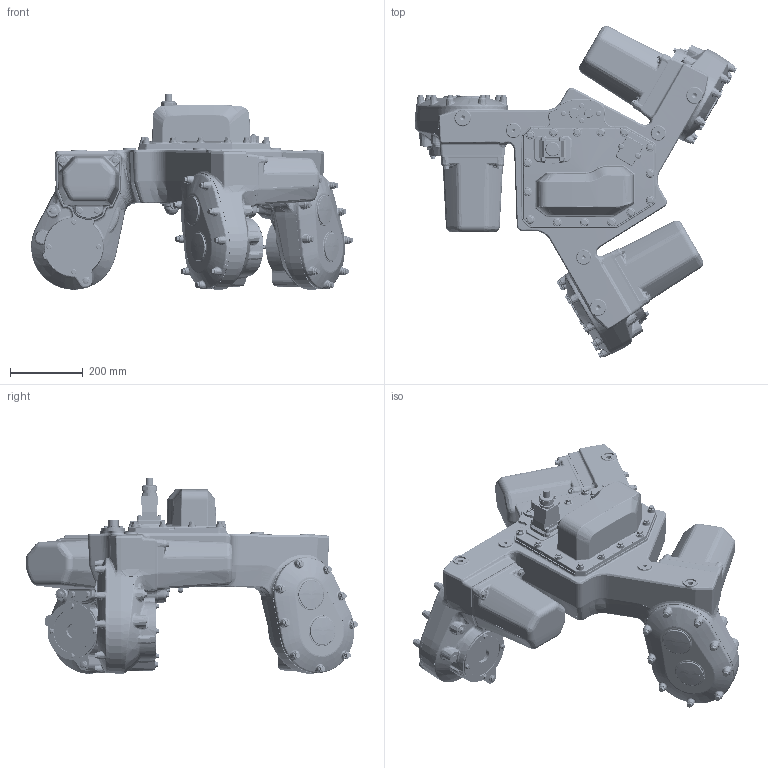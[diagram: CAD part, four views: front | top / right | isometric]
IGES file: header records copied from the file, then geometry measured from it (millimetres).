
Start section: SolidWorks IGES file using analytic representation for surfaces
Global section: file name: C:\Data\SAP_DOC_20200123_IRB390\Lättmodeller_IRB390\Final_4axis\IRB390_15kg_1300_STD_rev0_IGES_J\IRB390_X_1300_STD_BASE_00.IGS; native system: SolidWorks 2018; preprocessor: SolidWorks 2018; author: sestdan2; date: 200204.155736; units: millimetre
Bounding box: 885.66 x 912.99 x 538.25 mm (x, y, z)
Surface area: 1811990.3 mm2 (no closed solid volume)
Topology: 0 solids, 0 shells, 5197 faces, 67163 edges, 67029 vertices
Faces by surface type: bspline 3148, revolution 2049
